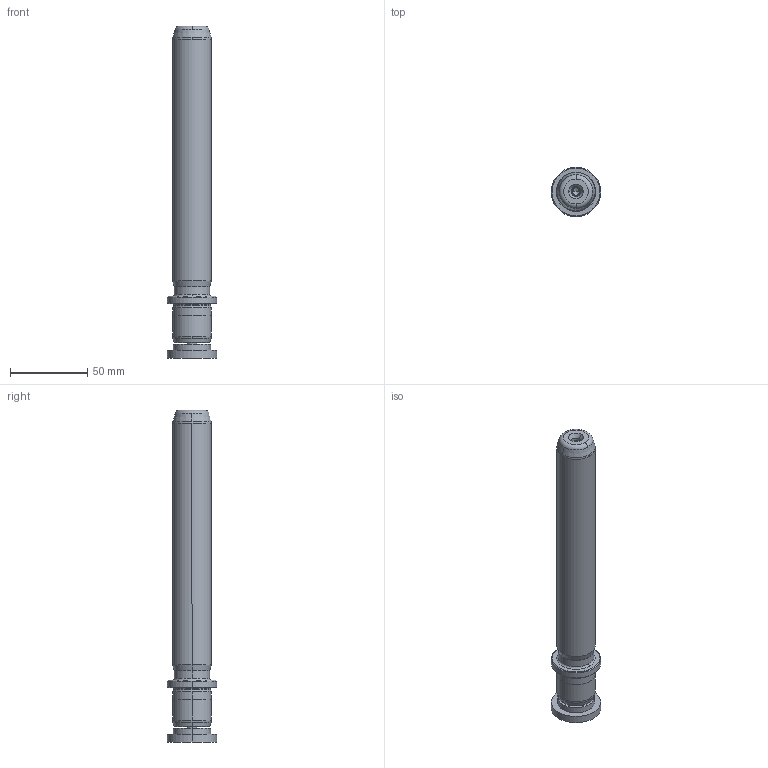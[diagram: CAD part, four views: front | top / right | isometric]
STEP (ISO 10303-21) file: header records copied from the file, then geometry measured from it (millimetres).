
FILE_DESCRIPTION((''),'2;1');
FILE_NAME('P22_025_180.stp','2009-02-02T15:37:43',(''),(''),'Mechanical Desktop 2009','Mechanical Desktop 2009',', , ');
FILE_SCHEMA(('CONFIG_CONTROL_DESIGN'));
Length unit declared in the file: millimetre
Products named in the file (2): Product; blmdl1
Assembly tree (1 placements, depth 2):
  Product
    blmdl1
Bounding box: 32 x 32 x 215 mm (x, y, z)
Volume: 105520.8 mm3; surface area: 21413.2 mm2
Topology: 3 solids, 3 shells, 99 faces, 237 edges, 149 vertices
Faces by surface type: cylinder 32, cone 28, plane 19, torus 10, bspline 10
Entity records: 3419 total; most frequent: CARTESIAN_POINT 923, DIRECTION 570, ORIENTED_EDGE 466, AXIS2_PLACEMENT_3D 246, EDGE_CURVE 233, CIRCLE 155, VERTEX_POINT 149, EDGE_LOOP 110
